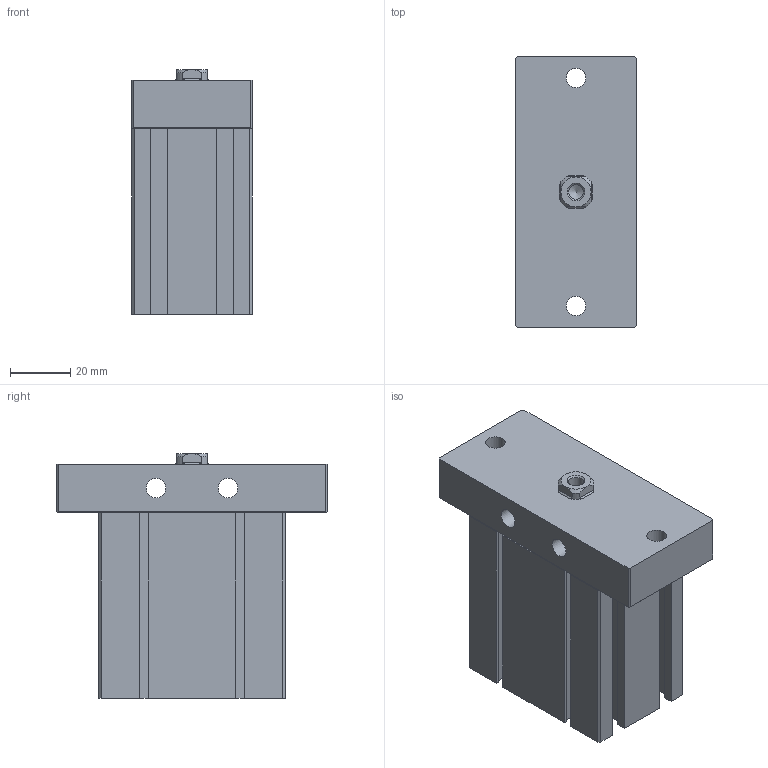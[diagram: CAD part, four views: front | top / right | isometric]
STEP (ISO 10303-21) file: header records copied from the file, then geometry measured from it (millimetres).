
FILE_DESCRIPTION((''),'2;1');
FILE_NAME('J:\3D電子目錄\氣缸\ND\ND\ND32-F\ND32x30-F.stp','2008-03-12T14:55:14',('66-2f-008'),(''),'Autodesk Inventor 11','Autodesk Inventor 11','');
FILE_SCHEMA(('AUTOMOTIVE_DESIGN { 1 0 10303 214 1 1 1 1 }'));
Length unit declared in the file: millimetre
Products named in the file (1): ND32-F
Bounding box: 40 x 90 x 81.5 mm (x, y, z)
Volume: 188236.8 mm3; surface area: 35324.9 mm2
Topology: 2 solids, 2 shells, 145 faces, 371 edges, 239 vertices
Faces by surface type: plane 105, bspline 16, cone 12, cylinder 11, torus 1
Full cylindrical faces by diameter (mm): 2.2 x2, 6.5 x2, 23 x1, 34 x1, 36 x1
Entity records: 4318 total; most frequent: CARTESIAN_POINT 948, ORIENTED_EDGE 674, DIRECTION 650, EDGE_CURVE 337, VECTOR 268, LINE 268, VERTEX_POINT 233, AXIS2_PLACEMENT_3D 191
